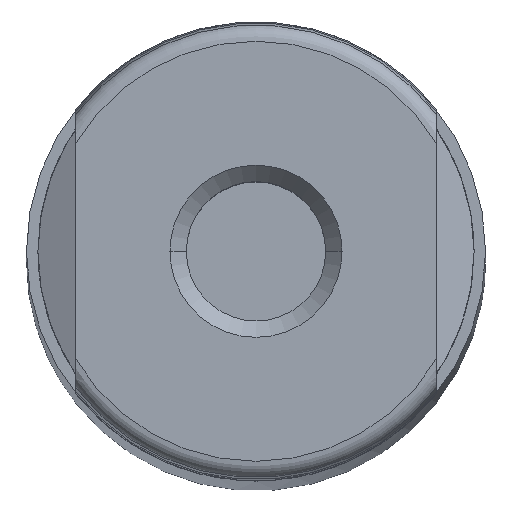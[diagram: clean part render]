
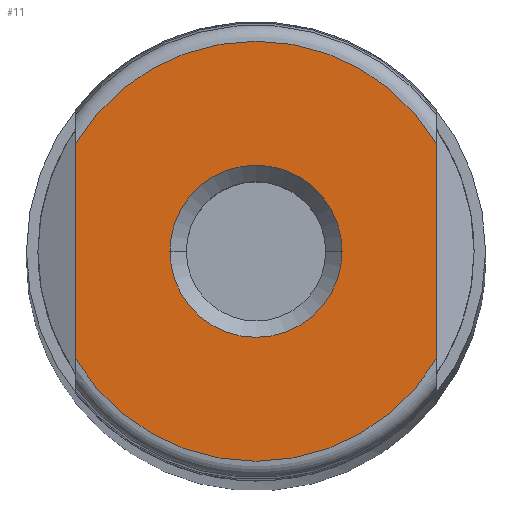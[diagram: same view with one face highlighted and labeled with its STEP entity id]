
A CAD part, top view. The second image highlights one B-rep face of the part: STEP entity #11.
In plain terms, the highlighted planar face has unit normal (0, 0, 1).
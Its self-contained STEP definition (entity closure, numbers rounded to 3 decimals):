
#11 = ADVANCED_FACE ( 'NONE', ( #384, #385 ), #388, .F. ) ;
#41 = EDGE_CURVE ( 'NONE', #84, #820, #613, .T. ) ;
#46 = VERTEX_POINT ( 'NONE', #647 ) ;
#70 = ORIENTED_EDGE ( 'NONE', *, *, #1200, .F. ) ;
#84 = VERTEX_POINT ( 'NONE', #906 ) ;
#87 = ORIENTED_EDGE ( 'NONE', *, *, #1308, .T. ) ;
#112 = EDGE_LOOP ( 'NONE', ( #70, #252 ) ) ;
#146 = VERTEX_POINT ( 'NONE', #645 ) ;
#187 = VERTEX_POINT ( 'NONE', #943 ) ;
#233 = EDGE_CURVE ( 'NONE', #1053, #46, #481, .T. ) ;
#252 = ORIENTED_EDGE ( 'NONE', *, *, #233, .F. ) ;
#310 = EDGE_LOOP ( 'NONE', ( #648, #349, #87, #406 ) ) ;
#349 = ORIENTED_EDGE ( 'NONE', *, *, #41, .T. ) ;
#384 = FACE_BOUND ( 'NONE', #112, .T. ) ;
#385 = FACE_OUTER_BOUND ( 'NONE', #310, .T. ) ;
#388 = PLANE ( 'NONE',  #389 ) ;
#389 = AXIS2_PLACEMENT_3D ( 'NONE', #390, #391, #392 ) ;
#390 = CARTESIAN_POINT ( 'NONE',  ( 0., 0., 0. ) ) ;
#391 = DIRECTION ( 'NONE',  ( 0., 0., -1. ) ) ;
#392 = DIRECTION ( 'NONE',  ( -1., 0., 0. ) ) ;
#406 = ORIENTED_EDGE ( 'NONE', *, *, #582, .F. ) ;
#481 = CIRCLE ( 'NONE', #482, 5.25 ) ;
#482 = AXIS2_PLACEMENT_3D ( 'NONE', #483, #484, #485 ) ;
#483 = CARTESIAN_POINT ( 'NONE',  ( 0., 0., 0. ) ) ;
#484 = DIRECTION ( 'NONE',  ( 0., 0., 1. ) ) ;
#485 = DIRECTION ( 'NONE',  ( 1., 0., 0. ) ) ;
#582 = EDGE_CURVE ( 'NONE', #146, #187, #853, .T. ) ;
#613 = LINE ( 'NONE', #614, #615 ) ;
#614 = CARTESIAN_POINT ( 'NONE',  ( 11., -14., 0. ) ) ;
#615 = VECTOR ( 'NONE', #616, 1000. ) ;
#616 = DIRECTION ( 'NONE',  ( 0., 1., 0. ) ) ;
#645 = CARTESIAN_POINT ( 'NONE',  ( -11., -6.56, 0. ) ) ;
#647 = CARTESIAN_POINT ( 'NONE',  ( 5.25, 0., 0. ) ) ;
#648 = ORIENTED_EDGE ( 'NONE', *, *, #751, .T. ) ;
#656 = CIRCLE ( 'NONE', #657, 12.808 ) ;
#657 = AXIS2_PLACEMENT_3D ( 'NONE', #658, #659, #660 ) ;
#658 = CARTESIAN_POINT ( 'NONE',  ( 0., 0., 0. ) ) ;
#659 = DIRECTION ( 'NONE',  ( 0., 0., 1. ) ) ;
#660 = DIRECTION ( 'NONE',  ( 1., 0., 0. ) ) ;
#751 = EDGE_CURVE ( 'NONE', #146, #84, #1009, .T. ) ;
#820 = VERTEX_POINT ( 'NONE', #1077 ) ;
#853 = LINE ( 'NONE', #854, #855 ) ;
#854 = CARTESIAN_POINT ( 'NONE',  ( -11., -14., 0. ) ) ;
#855 = VECTOR ( 'NONE', #857, 1000. ) ;
#857 = DIRECTION ( 'NONE',  ( 0., 1., 0. ) ) ;
#906 = CARTESIAN_POINT ( 'NONE',  ( 11., -6.56, 0. ) ) ;
#943 = CARTESIAN_POINT ( 'NONE',  ( -11., 6.56, 0. ) ) ;
#1009 = CIRCLE ( 'NONE', #1010, 12.808 ) ;
#1010 = AXIS2_PLACEMENT_3D ( 'NONE', #1011, #1012, #1013 ) ;
#1011 = CARTESIAN_POINT ( 'NONE',  ( 0., 0., 0. ) ) ;
#1012 = DIRECTION ( 'NONE',  ( 0., 0., 1. ) ) ;
#1013 = DIRECTION ( 'NONE',  ( 1., 0., 0. ) ) ;
#1053 = VERTEX_POINT ( 'NONE', #1149 ) ;
#1077 = CARTESIAN_POINT ( 'NONE',  ( 11., 6.56, 0. ) ) ;
#1149 = CARTESIAN_POINT ( 'NONE',  ( -5.25, 0., 0. ) ) ;
#1200 = EDGE_CURVE ( 'NONE', #46, #1053, #1208, .T. ) ;
#1208 = CIRCLE ( 'NONE', #1209, 5.25 ) ;
#1209 = AXIS2_PLACEMENT_3D ( 'NONE', #1210, #1211, #1212 ) ;
#1210 = CARTESIAN_POINT ( 'NONE',  ( 0., 0., 0. ) ) ;
#1211 = DIRECTION ( 'NONE',  ( 0., 0., 1. ) ) ;
#1212 = DIRECTION ( 'NONE',  ( 1., 0., 0. ) ) ;
#1308 = EDGE_CURVE ( 'NONE', #820, #187, #656, .T. ) ;
